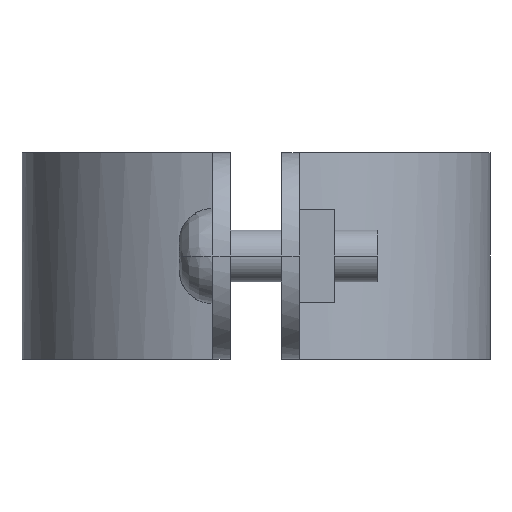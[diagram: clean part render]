
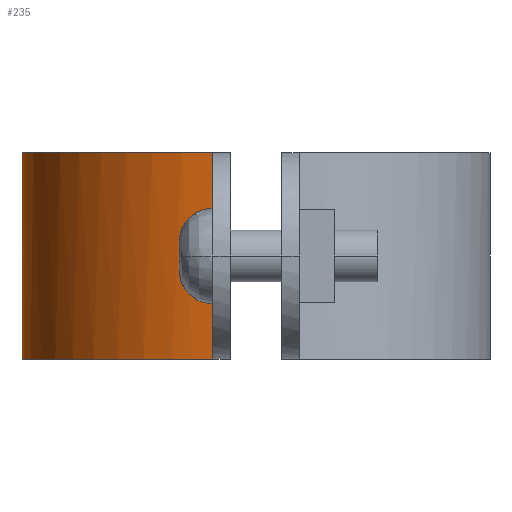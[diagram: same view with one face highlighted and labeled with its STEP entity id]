
A CAD part, left-side view. The second image highlights one B-rep face of the part: STEP entity #235.
In plain terms, the highlighted free-form (B-spline) face has degree [3, 1] with [4, 2] control points.
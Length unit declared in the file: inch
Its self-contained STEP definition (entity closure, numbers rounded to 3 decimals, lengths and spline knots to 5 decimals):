
#235=ADVANCED_FACE('',(#484),#485,.T.);
#484=FACE_OUTER_BOUND('',#1147,.T.);
#485=B_SPLINE_SURFACE_WITH_KNOTS('',3,1,((#1148,#1149),(#1150,#1151),(#1152,#1153),(#1154,#1155)),.UNSPECIFIED.,.F.,.F.,.F.,(4,4),(2,2),(0.0,1.0),(0.0,1.25),.UNSPECIFIED.);
#1147=EDGE_LOOP('',(#1696,#1697,#1698,#1699));
#1148=CARTESIAN_POINT('',(2.12627,2.83758,0.0));
#1149=CARTESIAN_POINT('',(2.12627,2.83758,1.25));
#1150=CARTESIAN_POINT('',(1.44398,2.83758,0.0));
#1151=CARTESIAN_POINT('',(1.44398,2.83758,1.25));
#1152=CARTESIAN_POINT('',(0.85847,2.35164,0.0));
#1153=CARTESIAN_POINT('',(0.85847,2.35164,1.25));
#1154=CARTESIAN_POINT('',(0.73273,1.68107,0.0));
#1155=CARTESIAN_POINT('',(0.73273,1.68107,1.25));
#1696=ORIENTED_EDGE('',*,*,#2102,.T.);
#1697=ORIENTED_EDGE('',*,*,#2201,.T.);
#1698=ORIENTED_EDGE('',*,*,#2202,.T.);
#1699=ORIENTED_EDGE('',*,*,#2203,.F.);
#2102=EDGE_CURVE('',#2426,#2435,#2437,.T.);
#2201=EDGE_CURVE('',#2435,#2586,#2587,.T.);
#2202=EDGE_CURVE('',#2586,#2588,#2589,.T.);
#2203=EDGE_CURVE('',#2426,#2588,#2590,.T.);
#2426=VERTEX_POINT('',#2971);
#2435=VERTEX_POINT('',#2985);
#2437=B_SPLINE_CURVE_WITH_KNOTS('',3,(#2988,#2989,#2990,#2991),.UNSPECIFIED.,.F.,.F.,(4,4),(0.0,1.0),.UNSPECIFIED.);
#2586=VERTEX_POINT('',#3329);
#2587=LINE('',#3330,#3331);
#2588=VERTEX_POINT('',#3332);
#2589=B_SPLINE_CURVE_WITH_KNOTS('',3,(#3333,#3334,#3335,#3336),.UNSPECIFIED.,.F.,.F.,(4,4),(-1.0,-0.0),.UNSPECIFIED.);
#2590=LINE('',#3337,#3338);
#2971=CARTESIAN_POINT('',(2.12627,2.83758,0.00011));
#2985=CARTESIAN_POINT('',(0.73273,1.68107,0.00011));
#2988=CARTESIAN_POINT('',(2.12627,2.83758,0.00011));
#2989=CARTESIAN_POINT('',(1.44398,2.83758,0.00011));
#2990=CARTESIAN_POINT('',(0.85847,2.35164,0.00011));
#2991=CARTESIAN_POINT('',(0.73273,1.68107,0.00011));
#3329=CARTESIAN_POINT('',(0.73273,1.68107,1.24989));
#3330=CARTESIAN_POINT('',(0.73273,1.68107,0.0));
#3331=VECTOR('',#3619,1.0);
#3332=CARTESIAN_POINT('',(2.12627,2.83758,1.24989));
#3333=CARTESIAN_POINT('',(0.73273,1.68107,1.24989));
#3334=CARTESIAN_POINT('',(0.85847,2.35164,1.24989));
#3335=CARTESIAN_POINT('',(1.44398,2.83758,1.24989));
#3336=CARTESIAN_POINT('',(2.12627,2.83758,1.24989));
#3337=CARTESIAN_POINT('',(2.12627,2.83758,0.0));
#3338=VECTOR('',#3620,1.0);
#3619=DIRECTION('',(0.0,0.0,1.0));
#3620=DIRECTION('',(0.0,0.0,1.0));
